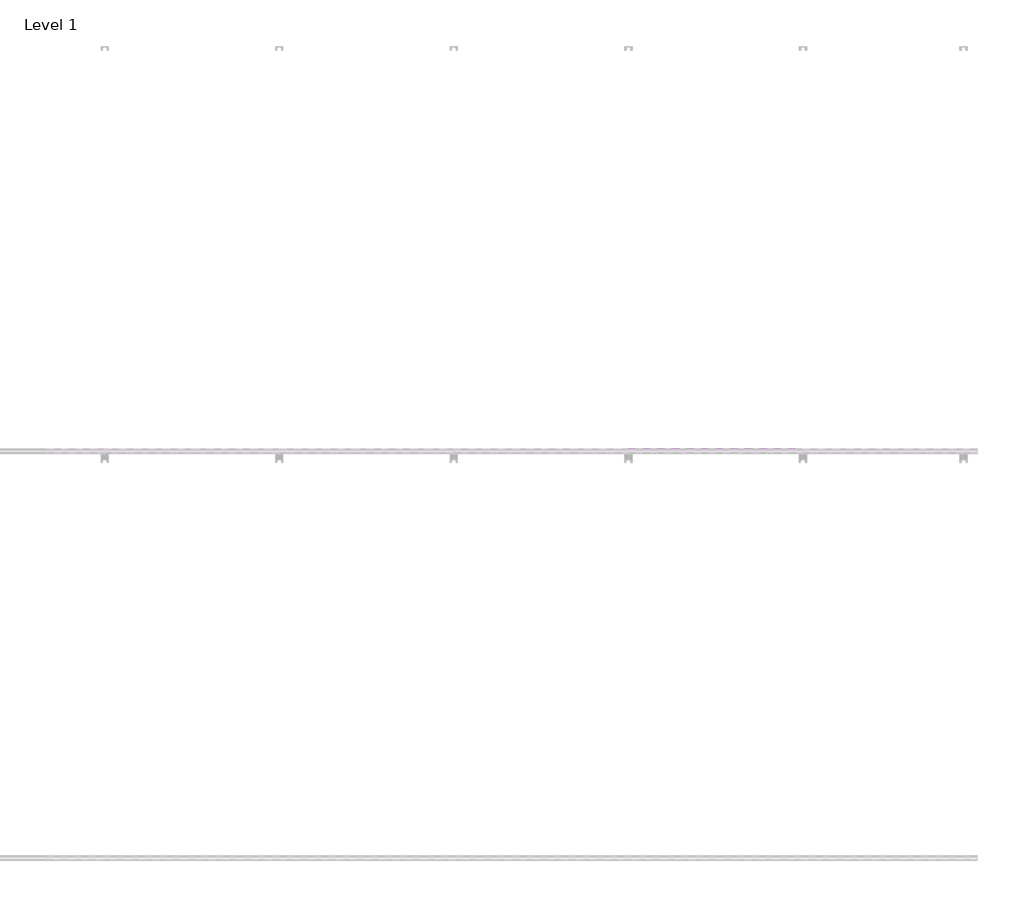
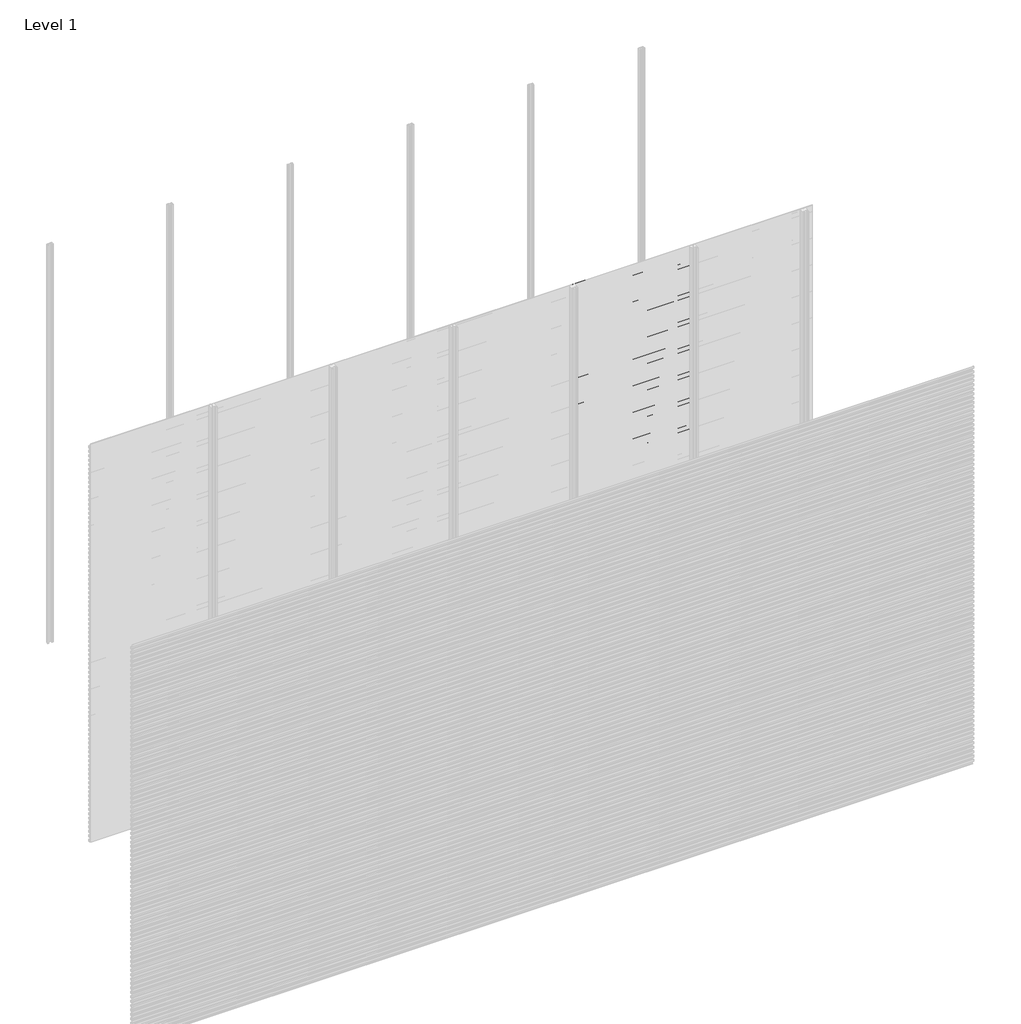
# One storey, part 76 of 96: 77 proxies.
"""IFC4 building model written with IfcOpenShell, lengths in millimetres."""

import ifcopenshell
import ifcopenshell.guid

model = None  # the IFC model being written
_history = None  # IfcOwnerHistory: only IFC2X3 demands one
_inside = {}  # id of a spatial element -> (the spatial element, [elements in it])
_under = {}  # id of a project, library or spatial element -> (it, [spatial elements below it])
_declared = {}  # id of a project -> (the project, [libraries it declares])
_typed = {}  # id of a type object -> (the type object, [elements of that type])
_made_of = {}  # id of a material, layer set ... -> (it, [elements and type objects made of it])


def new_model(schema):
    """Start an empty IFC model of exactly this schema.

    Asked for "IFC4X3", IfcOpenShell would pick the latest addendum, in which some entities
    have other attributes; the version numbers below select the first issue.
    IFC2X3 requires an IfcOwnerHistory on every rooted entity: one is made here for all.
    """
    global model, _history
    if schema == "IFC4X3":
        model = ifcopenshell.file(schema_version=(4, 3, 0, 0))
    else:
        model = ifcopenshell.file(schema=schema)
    _inside.clear()
    _under.clear()
    _declared.clear()
    _typed.clear()
    _made_of.clear()
    _history = None
    if model.schema == "IFC2X3":
        org = make("IfcOrganization", Name="unknown")
        user = make(
            "IfcPersonAndOrganization",
            ThePerson=make("IfcPerson", FamilyName="unknown"),
            TheOrganization=org,
        )
        app = make(
            "IfcApplication",
            ApplicationDeveloper=org,
            Version="unknown",
            ApplicationFullName="unknown",
            ApplicationIdentifier="unknown",
        )
        _history = make(
            "IfcOwnerHistory",
            OwningUser=user,
            OwningApplication=app,
            ChangeAction="ADDED",
            CreationDate=0,
        )
    return model


def make(cls, **values):
    """One entity of the class cls with the attributes given. An attribute that is None is left unset."""
    return model.create_entity(
        cls, **{name: value for name, value in values.items() if value is not None}
    )


def rooted(cls, **values):
    """An entity with a GlobalId (a new one), such as an element, a storey or a relation."""
    return make(cls, GlobalId=ifcopenshell.guid.new(), OwnerHistory=_history, **values)


def si_unit(unit_type, name, prefix=None):
    """IfcSIUnit, for example si_unit("LENGTHUNIT", "METRE", prefix="MILLI")."""
    return make("IfcSIUnit", UnitType=unit_type, Prefix=prefix, Name=name)


def assignment(units):
    """IfcUnitAssignment: the units of a project."""
    return None if units is None else make("IfcUnitAssignment", Units=units)


def point(xyz):
    """IfcCartesianPoint."""
    return None if xyz is None else make("IfcCartesianPoint", Coordinates=xyz)


def direction(xyz):
    """IfcDirection."""
    return None if xyz is None else make("IfcDirection", DirectionRatios=xyz)


def frame(location, z_axis=None, x_axis=None):
    """IfcAxis2Placement3D, a coordinate frame: its origin and axes. An axis left out is left unset."""
    return make(
        "IfcAxis2Placement3D",
        Location=point(location),
        Axis=direction(z_axis),
        RefDirection=direction(x_axis),
    )


def origin():
    """The frame at (0, 0, 0) with its axes left unset."""
    return frame((0.0, 0.0, 0.0))


def place(relative_to, where):
    """IfcLocalPlacement: puts the frame where relative to a parent placement (None: the world)."""
    return make(
        "IfcLocalPlacement", PlacementRelTo=relative_to, RelativePlacement=where
    )


def context(
    kind, dimensions, precision=None, world=None, true_north=None, identifier=None
):
    """IfcGeometricRepresentationContext, for example the 3D "Model" context."""
    return make(
        "IfcGeometricRepresentationContext",
        ContextIdentifier=identifier,
        ContextType=kind,
        CoordinateSpaceDimension=dimensions,
        Precision=precision,
        WorldCoordinateSystem=world,
        TrueNorth=true_north,
    )


def project(units=None, contexts=None):
    """IfcProject with its units and contexts."""
    return rooted(
        "IfcProject",
        Name="project",
        RepresentationContexts=contexts,
        UnitsInContext=assignment(units),
    )


def spatial(cls, under=None, at=None, **own):
    """A site, building, storey or space (cls), placed at a placement, below another one or the project."""
    s = rooted(cls, ObjectPlacement=at, **own)
    if under is not None:
        _under.setdefault(under.id(), (under, []))[1].append(s)
    return s


def polyline(points):
    """IfcPolyline through the points."""
    return make("IfcPolyline", Points=[point(p) for p in points])


def outline(outer, holes=None, kind="AREA"):
    """IfcArbitraryClosedProfileDef: a profile drawn as a closed curve; with holes, ...WithVoids."""
    if holes is None:
        return make("IfcArbitraryClosedProfileDef", ProfileType=kind, OuterCurve=outer)
    return make(
        "IfcArbitraryProfileDefWithVoids",
        ProfileType=kind,
        OuterCurve=outer,
        InnerCurves=holes,
    )


def extrude(swept, where, along, depth):
    """IfcExtrudedAreaSolid: the profile swept, set in the frame where, extruded along a direction by depth."""
    return make(
        "IfcExtrudedAreaSolid",
        SweptArea=swept,
        Position=where,
        ExtrudedDirection=direction(along),
        Depth=depth,
    )


def shape(context_of_items, identifier, shape_type, items):
    """IfcShapeRepresentation: the items that make up one representation, for example the "Body"."""
    return make(
        "IfcShapeRepresentation",
        ContextOfItems=context_of_items,
        RepresentationIdentifier=identifier,
        RepresentationType=shape_type,
        Items=items,
    )


def made_of(thing, what):
    """Note that an element or type object is made of a material, layer set ...; save() writes the relation."""
    if what is not None:
        _made_of.setdefault(what.id(), (what, []))[1].append(thing)
    return thing


def element(
    cls,
    number,
    at=None,
    inside=None,
    cuts=None,
    type_object=None,
    material=None,
    context=None,
    identifier="Body",
    shape_type=None,
    held_by="IfcProductDefinitionShape",
    body=None,
    shapes=None,
    **own,
):
    """One element of the class cls, such as IfcWall. Its Tag is "e" and its number.

    at: its placement. inside: the storey or other place that contains it. cuts: it is an
    opening in that element (IfcRelVoidsElement). A single representation is given by context,
    identifier, shape_type and body (its items); several are given by shapes. held_by: the class
    of the entity that holds the representations. save() writes the other relations.
    """
    e = rooted(cls, Tag="e%d" % number, ObjectPlacement=at, **own)
    if body is not None:
        shapes = [shape(context, identifier, shape_type, body)]
    if shapes is not None:
        e.Representation = make(held_by, Representations=shapes)
    if inside is not None:
        _inside.setdefault(inside.id(), (inside, []))[1].append(e)
    if cuts is not None:
        rooted(
            "IfcRelVoidsElement", RelatingBuildingElement=cuts, RelatedOpeningElement=e
        )
    if type_object is not None:
        _typed.setdefault(type_object.id(), (type_object, []))[1].append(e)
    return made_of(e, material)


def aggregate(whole, parts):
    """IfcRelAggregates: a whole, such as a stair, and the parts it consists of."""
    return rooted("IfcRelAggregates", RelatingObject=whole, RelatedObjects=parts)


def save(model, path):
    """Write the relations noted so far, then the file.

    IfcRelAggregates (storeys below a building ...), IfcRelContainedInSpatialStructure (elements
    in a storey), IfcRelDefinesByType, IfcRelAssociatesMaterial and IfcRelDeclares: one each for
    every whole, place, type object, material and project.
    """
    for whole, parts in _under.values():
        aggregate(whole, parts)
    for where, things in _inside.values():
        rooted(
            "IfcRelContainedInSpatialStructure",
            RelatedElements=things,
            RelatingStructure=where,
        )
    for kind, things in _typed.values():
        rooted("IfcRelDefinesByType", RelatedObjects=things, RelatingType=kind)
    for what, things in _made_of.values():
        rooted("IfcRelAssociatesMaterial", RelatedObjects=things, RelatingMaterial=what)
    for by, libraries in _declared.values():
        rooted("IfcRelDeclares", RelatingContext=by, RelatedDefinitions=libraries)
    model.write(path)


model = new_model("IFC4")

# Units and contexts
model_context = context("Model", 3, world=origin())
ifc_project = project(units=[si_unit("LENGTHUNIT", "METRE", prefix="MILLI")], contexts=[model_context])

# Site, building, storey
site = spatial("IfcSite", under=ifc_project)
building = spatial("IfcBuilding", under=site)
storey = spatial("IfcBuildingStorey", under=building, Name="Level 1", Elevation=0.0)

# Proxies
placement = place(None, origin())
element("IfcBuildingElementProxy", 1, Name="Wall Sweeps", at=placement, inside=storey, context=model_context, shape_type="SweptSolid", body=[
    extrude(outline(polyline([(-11977.6, 1106.9655033), (-11977.6, 1092.6779188), (-11982.4114965, 1089.9), (-11982.4114965, 1091.1701706), (-11978.85, 1093.2264016), (-11978.85, 1106.2437382), (-11998.0, 1117.3000799), (-11998.0, 1132.2), (-11996.75, 1132.2), (-11996.75, 1118.0217609), (-11977.6, 1106.9655033)])), frame((3428.5714286, 0.0, 0.0), z_axis=(1.0, 0.0, 0.0), x_axis=(0.0, 1.0, 0.0)), (0.0, 0.0, 1.0), 857.1428571),
])
element("IfcBuildingElementProxy", 2, Name="Wall Sweeps", at=placement, inside=storey, context=model_context, shape_type="SweptSolid", body=[
    extrude(outline(polyline([(-11977.6, 1073.6655033), (-11977.6, 1059.3779188), (-11982.4114965, 1056.6), (-11982.4114965, 1057.8701706), (-11978.85, 1059.9264016), (-11978.85, 1072.9437382), (-11998.0, 1084.0000799), (-11998.0, 1098.9), (-11996.75, 1098.9), (-11996.75, 1084.7217609), (-11977.6, 1073.6655033)])), frame((3428.5714286, 0.0, 0.0), z_axis=(1.0, 0.0, 0.0), x_axis=(0.0, 1.0, 0.0)), (0.0, 0.0, 1.0), 857.1428571),
])
element("IfcBuildingElementProxy", 3, Name="Wall Sweeps", at=placement, inside=storey, context=model_context, shape_type="SweptSolid", body=[
    extrude(outline(polyline([(-11977.6, 1040.3655033), (-11977.6, 1026.0779188), (-11982.4114965, 1023.3), (-11982.4114965, 1024.5701706), (-11978.85, 1026.6264016), (-11978.85, 1039.6437382), (-11998.0, 1050.7000799), (-11998.0, 1065.6), (-11996.75, 1065.6), (-11996.75, 1051.4217609), (-11977.6, 1040.3655033)])), frame((3428.5714286, 0.0, 0.0), z_axis=(1.0, 0.0, 0.0), x_axis=(0.0, 1.0, 0.0)), (0.0, 0.0, 1.0), 857.1428571),
])
element("IfcBuildingElementProxy", 4, Name="Wall Sweeps", at=placement, inside=storey, context=model_context, shape_type="SweptSolid", body=[
    extrude(outline(polyline([(-11977.6, 1007.0655033), (-11977.6, 992.7779188), (-11982.4114965, 990.0), (-11982.4114965, 991.2701706), (-11978.85, 993.3264016), (-11978.85, 1006.3437382), (-11998.0, 1017.4000799), (-11998.0, 1032.3), (-11996.75, 1032.3), (-11996.75, 1018.1217609), (-11977.6, 1007.0655033)])), frame((3428.5714286, 0.0, 0.0), z_axis=(1.0, 0.0, 0.0), x_axis=(0.0, 1.0, 0.0)), (0.0, 0.0, 1.0), 857.1428571),
])
element("IfcBuildingElementProxy", 5, Name="Wall Sweeps", at=placement, inside=storey, context=model_context, shape_type="SweptSolid", body=[
    extrude(outline(polyline([(-11977.6, 973.7655033), (-11977.6, 959.4779188), (-11982.4114965, 956.7), (-11982.4114965, 957.9701706), (-11978.85, 960.0264016), (-11978.85, 973.0437382), (-11998.0, 984.1000799), (-11998.0, 999.0), (-11996.75, 999.0), (-11996.75, 984.8217609), (-11977.6, 973.7655033)])), frame((3428.5714286, 0.0, 0.0), z_axis=(1.0, 0.0, 0.0), x_axis=(0.0, 1.0, 0.0)), (0.0, 0.0, 1.0), 857.1428571),
])
element("IfcBuildingElementProxy", 6, Name="Wall Sweeps", at=placement, inside=storey, context=model_context, shape_type="SweptSolid", body=[
    extrude(outline(polyline([(-11977.6, 940.4655033), (-11977.6, 926.1779188), (-11982.4114965, 923.4), (-11982.4114965, 924.6701706), (-11978.85, 926.7264016), (-11978.85, 939.7437382), (-11998.0, 950.8000799), (-11998.0, 965.7), (-11996.75, 965.7), (-11996.75, 951.5217609), (-11977.6, 940.4655033)])), frame((3428.5714286, 0.0, 0.0), z_axis=(1.0, 0.0, 0.0), x_axis=(0.0, 1.0, 0.0)), (0.0, 0.0, 1.0), 857.1428571),
])
element("IfcBuildingElementProxy", 7, Name="Wall Sweeps", at=placement, inside=storey, context=model_context, shape_type="SweptSolid", body=[
    extrude(outline(polyline([(-11977.6, 907.1655033), (-11977.6, 892.8779188), (-11982.4114965, 890.1), (-11982.4114965, 891.3701706), (-11978.85, 893.4264016), (-11978.85, 906.4437382), (-11998.0, 917.5000799), (-11998.0, 932.4), (-11996.75, 932.4), (-11996.75, 918.2217609), (-11977.6, 907.1655033)])), frame((3428.5714286, 0.0, 0.0), z_axis=(1.0, 0.0, 0.0), x_axis=(0.0, 1.0, 0.0)), (0.0, 0.0, 1.0), 857.1428571),
])
element("IfcBuildingElementProxy", 8, Name="Wall Sweeps", at=placement, inside=storey, context=model_context, shape_type="SweptSolid", body=[
    extrude(outline(polyline([(-11977.6, 873.8655033), (-11977.6, 859.5779188), (-11982.4114965, 856.8), (-11982.4114965, 858.0701706), (-11978.85, 860.1264016), (-11978.85, 873.1437382), (-11998.0, 884.2000799), (-11998.0, 899.1), (-11996.75, 899.1), (-11996.75, 884.9217609), (-11977.6, 873.8655033)])), frame((3428.5714286, 0.0, 0.0), z_axis=(1.0, 0.0, 0.0), x_axis=(0.0, 1.0, 0.0)), (0.0, 0.0, 1.0), 857.1428571),
])
element("IfcBuildingElementProxy", 9, Name="Wall Sweeps", at=placement, inside=storey, context=model_context, shape_type="SweptSolid", body=[
    extrude(outline(polyline([(-11977.6, 840.5655033), (-11977.6, 826.2779188), (-11982.4114965, 823.5), (-11982.4114965, 824.7701706), (-11978.85, 826.8264016), (-11978.85, 839.8437382), (-11998.0, 850.9000799), (-11998.0, 865.8), (-11996.75, 865.8), (-11996.75, 851.6217609), (-11977.6, 840.5655033)])), frame((3428.5714286, 0.0, 0.0), z_axis=(1.0, 0.0, 0.0), x_axis=(0.0, 1.0, 0.0)), (0.0, 0.0, 1.0), 857.1428571),
])
element("IfcBuildingElementProxy", 10, Name="Wall Sweeps", at=placement, inside=storey, context=model_context, shape_type="SweptSolid", body=[
    extrude(outline(polyline([(-11977.6, 807.2655033), (-11977.6, 792.9779188), (-11982.4114965, 790.2), (-11982.4114965, 791.4701706), (-11978.85, 793.5264016), (-11978.85, 806.5437382), (-11998.0, 817.6000799), (-11998.0, 832.5), (-11996.75, 832.5), (-11996.75, 818.3217609), (-11977.6, 807.2655033)])), frame((3428.5714286, 0.0, 0.0), z_axis=(1.0, 0.0, 0.0), x_axis=(0.0, 1.0, 0.0)), (0.0, 0.0, 1.0), 857.1428571),
])
element("IfcBuildingElementProxy", 11, Name="Wall Sweeps", at=placement, inside=storey, context=model_context, shape_type="SweptSolid", body=[
    extrude(outline(polyline([(-11977.6, 773.9655033), (-11977.6, 759.6779188), (-11982.4114965, 756.9), (-11982.4114965, 758.1701706), (-11978.85, 760.2264016), (-11978.85, 773.2437382), (-11998.0, 784.3000799), (-11998.0, 799.2), (-11996.75, 799.2), (-11996.75, 785.0217609), (-11977.6, 773.9655033)])), frame((3428.5714286, 0.0, 0.0), z_axis=(1.0, 0.0, 0.0), x_axis=(0.0, 1.0, 0.0)), (0.0, 0.0, 1.0), 857.1428571),
])
element("IfcBuildingElementProxy", 12, Name="Wall Sweeps", at=placement, inside=storey, context=model_context, shape_type="SweptSolid", body=[
    extrude(outline(polyline([(-11977.6, 740.6655033), (-11977.6, 726.3779188), (-11982.4114965, 723.6), (-11982.4114965, 724.8701706), (-11978.85, 726.9264016), (-11978.85, 739.9437382), (-11998.0, 751.0000799), (-11998.0, 765.9), (-11996.75, 765.9), (-11996.75, 751.7217609), (-11977.6, 740.6655033)])), frame((3428.5714286, 0.0, 0.0), z_axis=(1.0, 0.0, 0.0), x_axis=(0.0, 1.0, 0.0)), (0.0, 0.0, 1.0), 857.1428571),
])
element("IfcBuildingElementProxy", 13, Name="Wall Sweeps", at=placement, inside=storey, context=model_context, shape_type="SweptSolid", body=[
    extrude(outline(polyline([(-11977.6, 707.3655033), (-11977.6, 693.0779188), (-11982.4114965, 690.3), (-11982.4114965, 691.5701706), (-11978.85, 693.6264016), (-11978.85, 706.6437382), (-11998.0, 717.7000799), (-11998.0, 732.6), (-11996.75, 732.6), (-11996.75, 718.4217609), (-11977.6, 707.3655033)])), frame((3428.5714286, 0.0, 0.0), z_axis=(1.0, 0.0, 0.0), x_axis=(0.0, 1.0, 0.0)), (0.0, 0.0, 1.0), 857.1428571),
])
element("IfcBuildingElementProxy", 14, Name="Wall Sweeps", at=placement, inside=storey, context=model_context, shape_type="SweptSolid", body=[
    extrude(outline(polyline([(-11977.6, 674.0655033), (-11977.6, 659.7779188), (-11982.4114965, 657.0), (-11982.4114965, 658.2701706), (-11978.85, 660.3264016), (-11978.85, 673.3437382), (-11998.0, 684.4000799), (-11998.0, 699.3), (-11996.75, 699.3), (-11996.75, 685.1217609), (-11977.6, 674.0655033)])), frame((3428.5714286, 0.0, 0.0), z_axis=(1.0, 0.0, 0.0), x_axis=(0.0, 1.0, 0.0)), (0.0, 0.0, 1.0), 857.1428571),
])
element("IfcBuildingElementProxy", 15, Name="Wall Sweeps", at=placement, inside=storey, context=model_context, shape_type="SweptSolid", body=[
    extrude(outline(polyline([(-11977.6, 640.7655033), (-11977.6, 626.4779188), (-11982.4114965, 623.7), (-11982.4114965, 624.9701706), (-11978.85, 627.0264016), (-11978.85, 640.0437382), (-11998.0, 651.1000799), (-11998.0, 666.0), (-11996.75, 666.0), (-11996.75, 651.8217609), (-11977.6, 640.7655033)])), frame((3428.5714286, 0.0, 0.0), z_axis=(1.0, 0.0, 0.0), x_axis=(0.0, 1.0, 0.0)), (0.0, 0.0, 1.0), 857.1428571),
])
element("IfcBuildingElementProxy", 16, Name="Wall Sweeps", at=placement, inside=storey, context=model_context, shape_type="SweptSolid", body=[
    extrude(outline(polyline([(-11977.6, 607.4655033), (-11977.6, 593.1779188), (-11982.4114965, 590.4), (-11982.4114965, 591.6701706), (-11978.85, 593.7264016), (-11978.85, 606.7437382), (-11998.0, 617.8000799), (-11998.0, 632.7), (-11996.75, 632.7), (-11996.75, 618.5217609), (-11977.6, 607.4655033)])), frame((3428.5714286, 0.0, 0.0), z_axis=(1.0, 0.0, 0.0), x_axis=(0.0, 1.0, 0.0)), (0.0, 0.0, 1.0), 857.1428571),
])
element("IfcBuildingElementProxy", 17, Name="Wall Sweeps", at=placement, inside=storey, context=model_context, shape_type="SweptSolid", body=[
    extrude(outline(polyline([(-11977.6, 574.1655033), (-11977.6, 559.8779188), (-11982.4114965, 557.1), (-11982.4114965, 558.3701706), (-11978.85, 560.4264016), (-11978.85, 573.4437382), (-11998.0, 584.5000799), (-11998.0, 599.4), (-11996.75, 599.4), (-11996.75, 585.2217609), (-11977.6, 574.1655033)])), frame((3428.5714286, 0.0, 0.0), z_axis=(1.0, 0.0, 0.0), x_axis=(0.0, 1.0, 0.0)), (0.0, 0.0, 1.0), 857.1428571),
])
element("IfcBuildingElementProxy", 18, Name="Wall Sweeps", at=placement, inside=storey, context=model_context, shape_type="SweptSolid", body=[
    extrude(outline(polyline([(-11977.6, 540.8655033), (-11977.6, 526.5779188), (-11982.4114965, 523.8), (-11982.4114965, 525.0701706), (-11978.85, 527.1264016), (-11978.85, 540.1437382), (-11998.0, 551.2000799), (-11998.0, 566.1), (-11996.75, 566.1), (-11996.75, 551.9217609), (-11977.6, 540.8655033)])), frame((3428.5714286, 0.0, 0.0), z_axis=(1.0, 0.0, 0.0), x_axis=(0.0, 1.0, 0.0)), (0.0, 0.0, 1.0), 857.1428571),
])
element("IfcBuildingElementProxy", 19, Name="Wall Sweeps", at=placement, inside=storey, context=model_context, shape_type="SweptSolid", body=[
    extrude(outline(polyline([(-11977.6, 507.5655033), (-11977.6, 493.2779188), (-11982.4114965, 490.5), (-11982.4114965, 491.7701706), (-11978.85, 493.8264016), (-11978.85, 506.8437382), (-11998.0, 517.9000799), (-11998.0, 532.8), (-11996.75, 532.8), (-11996.75, 518.6217609), (-11977.6, 507.5655033)])), frame((3428.5714286, 0.0, 0.0), z_axis=(1.0, 0.0, 0.0), x_axis=(0.0, 1.0, 0.0)), (0.0, 0.0, 1.0), 857.1428571),
])
element("IfcBuildingElementProxy", 20, Name="Wall Sweeps", at=placement, inside=storey, context=model_context, shape_type="SweptSolid", body=[
    extrude(outline(polyline([(-11977.6, 474.2655033), (-11977.6, 459.9779188), (-11982.4114965, 457.2), (-11982.4114965, 458.4701706), (-11978.85, 460.5264016), (-11978.85, 473.5437382), (-11998.0, 484.6000799), (-11998.0, 499.5), (-11996.75, 499.5), (-11996.75, 485.3217609), (-11977.6, 474.2655033)])), frame((3428.5714286, 0.0, 0.0), z_axis=(1.0, 0.0, 0.0), x_axis=(0.0, 1.0, 0.0)), (0.0, 0.0, 1.0), 857.1428571),
])
element("IfcBuildingElementProxy", 21, Name="Wall Sweeps", at=placement, inside=storey, context=model_context, shape_type="SweptSolid", body=[
    extrude(outline(polyline([(-11977.6, 440.9655033), (-11977.6, 426.6779188), (-11982.4114965, 423.9), (-11982.4114965, 425.1701706), (-11978.85, 427.2264016), (-11978.85, 440.2437382), (-11998.0, 451.3000799), (-11998.0, 466.2), (-11996.75, 466.2), (-11996.75, 452.0217609), (-11977.6, 440.9655033)])), frame((3428.5714286, 0.0, 0.0), z_axis=(1.0, 0.0, 0.0), x_axis=(0.0, 1.0, 0.0)), (0.0, 0.0, 1.0), 857.1428571),
])
element("IfcBuildingElementProxy", 22, Name="Wall Sweeps", at=placement, inside=storey, context=model_context, shape_type="SweptSolid", body=[
    extrude(outline(polyline([(-11977.6, 407.6655033), (-11977.6, 393.3779188), (-11982.4114965, 390.6), (-11982.4114965, 391.8701706), (-11978.85, 393.9264016), (-11978.85, 406.9437382), (-11998.0, 418.0000799), (-11998.0, 432.9), (-11996.75, 432.9), (-11996.75, 418.7217609), (-11977.6, 407.6655033)])), frame((3428.5714286, 0.0, 0.0), z_axis=(1.0, 0.0, 0.0), x_axis=(0.0, 1.0, 0.0)), (0.0, 0.0, 1.0), 857.1428571),
])
element("IfcBuildingElementProxy", 23, Name="Wall Sweeps", at=placement, inside=storey, context=model_context, shape_type="SweptSolid", body=[
    extrude(outline(polyline([(-11977.6, 374.3655033), (-11977.6, 360.0779188), (-11982.4114965, 357.3), (-11982.4114965, 358.5701706), (-11978.85, 360.6264016), (-11978.85, 373.6437382), (-11998.0, 384.7000799), (-11998.0, 399.6), (-11996.75, 399.6), (-11996.75, 385.4217609), (-11977.6, 374.3655033)])), frame((3428.5714286, 0.0, 0.0), z_axis=(1.0, 0.0, 0.0), x_axis=(0.0, 1.0, 0.0)), (0.0, 0.0, 1.0), 857.1428571),
])
element("IfcBuildingElementProxy", 24, Name="Wall Sweeps", at=placement, inside=storey, context=model_context, shape_type="SweptSolid", body=[
    extrude(outline(polyline([(-11977.6, 341.0655033), (-11977.6, 326.7779188), (-11982.4114965, 324.0), (-11982.4114965, 325.2701706), (-11978.85, 327.3264016), (-11978.85, 340.3437382), (-11998.0, 351.4000799), (-11998.0, 366.3), (-11996.75, 366.3), (-11996.75, 352.1217609), (-11977.6, 341.0655033)])), frame((3428.5714286, 0.0, 0.0), z_axis=(1.0, 0.0, 0.0), x_axis=(0.0, 1.0, 0.0)), (0.0, 0.0, 1.0), 857.1428571),
])
element("IfcBuildingElementProxy", 25, Name="Wall Sweeps", at=placement, inside=storey, context=model_context, shape_type="SweptSolid", body=[
    extrude(outline(polyline([(-11977.6, 307.7655033), (-11977.6, 293.4779188), (-11982.4114965, 290.7), (-11982.4114965, 291.9701706), (-11978.85, 294.0264016), (-11978.85, 307.0437382), (-11998.0, 318.1000799), (-11998.0, 333.0), (-11996.75, 333.0), (-11996.75, 318.8217609), (-11977.6, 307.7655033)])), frame((3428.5714286, 0.0, 0.0), z_axis=(1.0, 0.0, 0.0), x_axis=(0.0, 1.0, 0.0)), (0.0, 0.0, 1.0), 857.1428571),
])
element("IfcBuildingElementProxy", 26, Name="Wall Sweeps", at=placement, inside=storey, context=model_context, shape_type="SweptSolid", body=[
    extrude(outline(polyline([(-11977.6, 274.4655033), (-11977.6, 260.1779188), (-11982.4114965, 257.4), (-11982.4114965, 258.6701706), (-11978.85, 260.7264016), (-11978.85, 273.7437382), (-11998.0, 284.8000799), (-11998.0, 299.7), (-11996.75, 299.7), (-11996.75, 285.5217609), (-11977.6, 274.4655033)])), frame((3428.5714286, 0.0, 0.0), z_axis=(1.0, 0.0, 0.0), x_axis=(0.0, 1.0, 0.0)), (0.0, 0.0, 1.0), 857.1428571),
])
element("IfcBuildingElementProxy", 27, Name="Wall Sweeps", at=placement, inside=storey, context=model_context, shape_type="SweptSolid", body=[
    extrude(outline(polyline([(-11977.6, 241.1655033), (-11977.6, 226.8779188), (-11982.4114965, 224.1), (-11982.4114965, 225.3701706), (-11978.85, 227.4264016), (-11978.85, 240.4437382), (-11998.0, 251.5000799), (-11998.0, 266.4), (-11996.75, 266.4), (-11996.75, 252.2217609), (-11977.6, 241.1655033)])), frame((3428.5714286, 0.0, 0.0), z_axis=(1.0, 0.0, 0.0), x_axis=(0.0, 1.0, 0.0)), (0.0, 0.0, 1.0), 857.1428571),
])
element("IfcBuildingElementProxy", 28, Name="Wall Sweeps", at=placement, inside=storey, context=model_context, shape_type="SweptSolid", body=[
    extrude(outline(polyline([(-11977.6, 207.8655033), (-11977.6, 193.5779188), (-11982.4114965, 190.8), (-11982.4114965, 192.0701706), (-11978.85, 194.1264016), (-11978.85, 207.1437382), (-11998.0, 218.2000799), (-11998.0, 233.1), (-11996.75, 233.1), (-11996.75, 218.9217609), (-11977.6, 207.8655033)])), frame((3428.5714286, 0.0, 0.0), z_axis=(1.0, 0.0, 0.0), x_axis=(0.0, 1.0, 0.0)), (0.0, 0.0, 1.0), 857.1428571),
])
element("IfcBuildingElementProxy", 29, Name="Wall Sweeps", at=placement, inside=storey, context=model_context, shape_type="SweptSolid", body=[
    extrude(outline(polyline([(-11977.6, 174.5655033), (-11977.6, 160.2779188), (-11982.4114965, 157.5), (-11982.4114965, 158.7701706), (-11978.85, 160.8264016), (-11978.85, 173.8437382), (-11998.0, 184.9000799), (-11998.0, 199.8), (-11996.75, 199.8), (-11996.75, 185.6217609), (-11977.6, 174.5655033)])), frame((3428.5714286, 0.0, 0.0), z_axis=(1.0, 0.0, 0.0), x_axis=(0.0, 1.0, 0.0)), (0.0, 0.0, 1.0), 857.1428571),
])
element("IfcBuildingElementProxy", 30, Name="Wall Sweeps", at=placement, inside=storey, context=model_context, shape_type="SweptSolid", body=[
    extrude(outline(polyline([(-11977.6, 141.2655033), (-11977.6, 126.9779188), (-11982.4114965, 124.2), (-11982.4114965, 125.4701706), (-11978.85, 127.5264016), (-11978.85, 140.5437382), (-11998.0, 151.6000799), (-11998.0, 166.5), (-11996.75, 166.5), (-11996.75, 152.3217609), (-11977.6, 141.2655033)])), frame((3428.5714286, 0.0, 0.0), z_axis=(1.0, 0.0, 0.0), x_axis=(0.0, 1.0, 0.0)), (0.0, 0.0, 1.0), 857.1428571),
])
element("IfcBuildingElementProxy", 31, Name="Wall Sweeps", at=placement, inside=storey, context=model_context, shape_type="SweptSolid", body=[
    extrude(outline(polyline([(-11977.6, 107.9655033), (-11977.6, 93.6779188), (-11982.4114965, 90.9), (-11982.4114965, 92.1701706), (-11978.85, 94.2264016), (-11978.85, 107.2437382), (-11998.0, 118.3000799), (-11998.0, 133.2), (-11996.75, 133.2), (-11996.75, 119.0217609), (-11977.6, 107.9655033)])), frame((3428.5714286, 0.0, 0.0), z_axis=(1.0, 0.0, 0.0), x_axis=(0.0, 1.0, 0.0)), (0.0, 0.0, 1.0), 857.1428571),
])
element("IfcBuildingElementProxy", 32, Name="Wall Sweeps", at=placement, inside=storey, context=model_context, shape_type="SweptSolid", body=[
    extrude(outline(polyline([(-11977.6, 74.6655033), (-11977.6, 60.3779188), (-11982.4114965, 57.6), (-11982.4114965, 58.8701706), (-11978.85, 60.9264016), (-11978.85, 73.9437382), (-11998.0, 85.0000799), (-11998.0, 99.9), (-11996.75, 99.9), (-11996.75, 85.7217609), (-11977.6, 74.6655033)])), frame((3428.5714286, 0.0, 0.0), z_axis=(1.0, 0.0, 0.0), x_axis=(0.0, 1.0, 0.0)), (0.0, 0.0, 1.0), 857.1428571),
])
element("IfcBuildingElementProxy", 33, Name="Wall Sweeps", at=placement, inside=storey, context=model_context, shape_type="SweptSolid", body=[
    extrude(outline(polyline([(-11977.6, 41.3655033), (-11977.6, 27.0779188), (-11982.4114965, 24.3), (-11982.4114965, 25.5701706), (-11978.85, 27.6264016), (-11978.85, 40.6437382), (-11998.0, 51.7000799), (-11998.0, 66.6), (-11996.75, 66.6), (-11996.75, 52.4217609), (-11977.6, 41.3655033)])), frame((3428.5714286, 0.0, 0.0), z_axis=(1.0, 0.0, 0.0), x_axis=(0.0, 1.0, 0.0)), (0.0, 0.0, 1.0), 857.1428571),
])
element("IfcBuildingElementProxy", 34, Name="Wall Sweeps", at=placement, inside=storey, context=model_context, shape_type="SweptSolid", body=[
    extrude(outline(polyline([(-11977.6, 8.0655033), (-11977.6, -6.2220812), (-11982.4114965, -9.0), (-11982.4114965, -7.7298294), (-11978.85, -5.6735984), (-11978.85, 7.3437382), (-11998.0, 18.4000799), (-11998.0, 33.3), (-11996.75, 33.3), (-11996.75, 19.1217609), (-11977.6, 8.0655033)])), frame((3428.5714286, 0.0, 0.0), z_axis=(1.0, 0.0, 0.0), x_axis=(0.0, 1.0, 0.0)), (0.0, 0.0, 1.0), 857.1428571),
])
element("IfcBuildingElementProxy", 35, Name="Wall Sweeps", at=placement, inside=storey, context=model_context, shape_type="SweptSolid", body=[
    extrude(outline(polyline([(-11977.6, 2971.7655033), (-11977.6, 2957.4779188), (-11982.4114965, 2954.7), (-11982.4114965, 2955.9701706), (-11978.85, 2958.0264016), (-11978.85, 2971.0437382), (-11998.0, 2982.1000799), (-11998.0, 2997.0), (-11996.75, 2997.0), (-11996.75, 2982.8217609), (-11977.6, 2971.7655033)])), frame((4285.7142857, 0.0, 0.0), z_axis=(1.0, 0.0, 0.0), x_axis=(0.0, 1.0, 0.0)), (0.0, 0.0, 1.0), 857.1428571),
])
element("IfcBuildingElementProxy", 36, Name="Wall Sweeps", at=placement, inside=storey, context=model_context, shape_type="SweptSolid", body=[
    extrude(outline(polyline([(-11977.6, 2938.4655033), (-11977.6, 2924.1779188), (-11982.4114965, 2921.4), (-11982.4114965, 2922.6701706), (-11978.85, 2924.7264016), (-11978.85, 2937.7437382), (-11998.0, 2948.8000799), (-11998.0, 2963.7), (-11996.75, 2963.7), (-11996.75, 2949.5217609), (-11977.6, 2938.4655033)])), frame((4285.7142857, 0.0, 0.0), z_axis=(1.0, 0.0, 0.0), x_axis=(0.0, 1.0, 0.0)), (0.0, 0.0, 1.0), 857.1428571),
])
element("IfcBuildingElementProxy", 37, Name="Wall Sweeps", at=placement, inside=storey, context=model_context, shape_type="SweptSolid", body=[
    extrude(outline(polyline([(-11977.6, 2905.1655033), (-11977.6, 2890.8779188), (-11982.4114965, 2888.1), (-11982.4114965, 2889.3701706), (-11978.85, 2891.4264016), (-11978.85, 2904.4437382), (-11998.0, 2915.5000799), (-11998.0, 2930.4), (-11996.75, 2930.4), (-11996.75, 2916.2217609), (-11977.6, 2905.1655033)])), frame((4285.7142857, 0.0, 0.0), z_axis=(1.0, 0.0, 0.0), x_axis=(0.0, 1.0, 0.0)), (0.0, 0.0, 1.0), 857.1428571),
])
element("IfcBuildingElementProxy", 38, Name="Wall Sweeps", at=placement, inside=storey, context=model_context, shape_type="SweptSolid", body=[
    extrude(outline(polyline([(-11977.6, 2871.8655033), (-11977.6, 2857.5779188), (-11982.4114965, 2854.8), (-11982.4114965, 2856.0701706), (-11978.85, 2858.1264016), (-11978.85, 2871.1437382), (-11998.0, 2882.2000799), (-11998.0, 2897.1), (-11996.75, 2897.1), (-11996.75, 2882.9217609), (-11977.6, 2871.8655033)])), frame((4285.7142857, 0.0, 0.0), z_axis=(1.0, 0.0, 0.0), x_axis=(0.0, 1.0, 0.0)), (0.0, 0.0, 1.0), 857.1428571),
])
element("IfcBuildingElementProxy", 39, Name="Wall Sweeps", at=placement, inside=storey, context=model_context, shape_type="SweptSolid", body=[
    extrude(outline(polyline([(-11977.6, 2838.5655033), (-11977.6, 2824.2779188), (-11982.4114965, 2821.5), (-11982.4114965, 2822.7701706), (-11978.85, 2824.8264016), (-11978.85, 2837.8437382), (-11998.0, 2848.9000799), (-11998.0, 2863.8), (-11996.75, 2863.8), (-11996.75, 2849.6217609), (-11977.6, 2838.5655033)])), frame((4285.7142857, 0.0, 0.0), z_axis=(1.0, 0.0, 0.0), x_axis=(0.0, 1.0, 0.0)), (0.0, 0.0, 1.0), 857.1428571),
])
element("IfcBuildingElementProxy", 40, Name="Wall Sweeps", at=placement, inside=storey, context=model_context, shape_type="SweptSolid", body=[
    extrude(outline(polyline([(-11977.6, 2805.2655033), (-11977.6, 2790.9779188), (-11982.4114965, 2788.2), (-11982.4114965, 2789.4701706), (-11978.85, 2791.5264016), (-11978.85, 2804.5437382), (-11998.0, 2815.6000799), (-11998.0, 2830.5), (-11996.75, 2830.5), (-11996.75, 2816.3217609), (-11977.6, 2805.2655033)])), frame((4285.7142857, 0.0, 0.0), z_axis=(1.0, 0.0, 0.0), x_axis=(0.0, 1.0, 0.0)), (0.0, 0.0, 1.0), 857.1428571),
])
element("IfcBuildingElementProxy", 41, Name="Wall Sweeps", at=placement, inside=storey, context=model_context, shape_type="SweptSolid", body=[
    extrude(outline(polyline([(-11977.6, 2771.9655033), (-11977.6, 2757.6779188), (-11982.4114965, 2754.9), (-11982.4114965, 2756.1701706), (-11978.85, 2758.2264016), (-11978.85, 2771.2437382), (-11998.0, 2782.3000799), (-11998.0, 2797.2), (-11996.75, 2797.2), (-11996.75, 2783.0217609), (-11977.6, 2771.9655033)])), frame((4285.7142857, 0.0, 0.0), z_axis=(1.0, 0.0, 0.0), x_axis=(0.0, 1.0, 0.0)), (0.0, 0.0, 1.0), 857.1428571),
])
element("IfcBuildingElementProxy", 42, Name="Wall Sweeps", at=placement, inside=storey, context=model_context, shape_type="SweptSolid", body=[
    extrude(outline(polyline([(-11977.6, 2738.6655033), (-11977.6, 2724.3779188), (-11982.4114965, 2721.6), (-11982.4114965, 2722.8701706), (-11978.85, 2724.9264016), (-11978.85, 2737.9437382), (-11998.0, 2749.0000799), (-11998.0, 2763.9), (-11996.75, 2763.9), (-11996.75, 2749.7217609), (-11977.6, 2738.6655033)])), frame((4285.7142857, 0.0, 0.0), z_axis=(1.0, 0.0, 0.0), x_axis=(0.0, 1.0, 0.0)), (0.0, 0.0, 1.0), 857.1428571),
])
element("IfcBuildingElementProxy", 43, Name="Wall Sweeps", at=placement, inside=storey, context=model_context, shape_type="SweptSolid", body=[
    extrude(outline(polyline([(-11977.6, 2705.3655033), (-11977.6, 2691.0779188), (-11982.4114965, 2688.3), (-11982.4114965, 2689.5701706), (-11978.85, 2691.6264016), (-11978.85, 2704.6437382), (-11998.0, 2715.7000799), (-11998.0, 2730.6), (-11996.75, 2730.6), (-11996.75, 2716.4217609), (-11977.6, 2705.3655033)])), frame((4285.7142857, 0.0, 0.0), z_axis=(1.0, 0.0, 0.0), x_axis=(0.0, 1.0, 0.0)), (0.0, 0.0, 1.0), 857.1428571),
])
element("IfcBuildingElementProxy", 44, Name="Wall Sweeps", at=placement, inside=storey, context=model_context, shape_type="SweptSolid", body=[
    extrude(outline(polyline([(-11977.6, 2672.0655033), (-11977.6, 2657.7779188), (-11982.4114965, 2655.0), (-11982.4114965, 2656.2701706), (-11978.85, 2658.3264016), (-11978.85, 2671.3437382), (-11998.0, 2682.4000799), (-11998.0, 2697.3), (-11996.75, 2697.3), (-11996.75, 2683.1217609), (-11977.6, 2672.0655033)])), frame((4285.7142857, 0.0, 0.0), z_axis=(1.0, 0.0, 0.0), x_axis=(0.0, 1.0, 0.0)), (0.0, 0.0, 1.0), 857.1428571),
])
element("IfcBuildingElementProxy", 45, Name="Wall Sweeps", at=placement, inside=storey, context=model_context, shape_type="SweptSolid", body=[
    extrude(outline(polyline([(-11977.6, 2638.7655033), (-11977.6, 2624.4779188), (-11982.4114965, 2621.7), (-11982.4114965, 2622.9701706), (-11978.85, 2625.0264016), (-11978.85, 2638.0437382), (-11998.0, 2649.1000799), (-11998.0, 2664.0), (-11996.75, 2664.0), (-11996.75, 2649.8217609), (-11977.6, 2638.7655033)])), frame((4285.7142857, 0.0, 0.0), z_axis=(1.0, 0.0, 0.0), x_axis=(0.0, 1.0, 0.0)), (0.0, 0.0, 1.0), 857.1428571),
])
element("IfcBuildingElementProxy", 46, Name="Wall Sweeps", at=placement, inside=storey, context=model_context, shape_type="SweptSolid", body=[
    extrude(outline(polyline([(-11977.6, 2605.4655033), (-11977.6, 2591.1779188), (-11982.4114965, 2588.4), (-11982.4114965, 2589.6701706), (-11978.85, 2591.7264016), (-11978.85, 2604.7437382), (-11998.0, 2615.8000799), (-11998.0, 2630.7), (-11996.75, 2630.7), (-11996.75, 2616.5217609), (-11977.6, 2605.4655033)])), frame((4285.7142857, 0.0, 0.0), z_axis=(1.0, 0.0, 0.0), x_axis=(0.0, 1.0, 0.0)), (0.0, 0.0, 1.0), 857.1428571),
])
element("IfcBuildingElementProxy", 47, Name="Wall Sweeps", at=placement, inside=storey, context=model_context, shape_type="SweptSolid", body=[
    extrude(outline(polyline([(-11977.6, 2572.1655033), (-11977.6, 2557.8779188), (-11982.4114965, 2555.1), (-11982.4114965, 2556.3701706), (-11978.85, 2558.4264016), (-11978.85, 2571.4437382), (-11998.0, 2582.5000799), (-11998.0, 2597.4), (-11996.75, 2597.4), (-11996.75, 2583.2217609), (-11977.6, 2572.1655033)])), frame((4285.7142857, 0.0, 0.0), z_axis=(1.0, 0.0, 0.0), x_axis=(0.0, 1.0, 0.0)), (0.0, 0.0, 1.0), 857.1428571),
])
element("IfcBuildingElementProxy", 48, Name="Wall Sweeps", at=placement, inside=storey, context=model_context, shape_type="SweptSolid", body=[
    extrude(outline(polyline([(-11977.6, 2538.8655033), (-11977.6, 2524.5779188), (-11982.4114965, 2521.8), (-11982.4114965, 2523.0701706), (-11978.85, 2525.1264016), (-11978.85, 2538.1437382), (-11998.0, 2549.2000799), (-11998.0, 2564.1), (-11996.75, 2564.1), (-11996.75, 2549.9217609), (-11977.6, 2538.8655033)])), frame((4285.7142857, 0.0, 0.0), z_axis=(1.0, 0.0, 0.0), x_axis=(0.0, 1.0, 0.0)), (0.0, 0.0, 1.0), 857.1428571),
])
element("IfcBuildingElementProxy", 49, Name="Wall Sweeps", at=placement, inside=storey, context=model_context, shape_type="SweptSolid", body=[
    extrude(outline(polyline([(-11977.6, 2505.5655033), (-11977.6, 2491.2779188), (-11982.4114965, 2488.5), (-11982.4114965, 2489.7701706), (-11978.85, 2491.8264016), (-11978.85, 2504.8437382), (-11998.0, 2515.9000799), (-11998.0, 2530.8), (-11996.75, 2530.8), (-11996.75, 2516.6217609), (-11977.6, 2505.5655033)])), frame((4285.7142857, 0.0, 0.0), z_axis=(1.0, 0.0, 0.0), x_axis=(0.0, 1.0, 0.0)), (0.0, 0.0, 1.0), 857.1428571),
])
element("IfcBuildingElementProxy", 50, Name="Wall Sweeps", at=placement, inside=storey, context=model_context, shape_type="SweptSolid", body=[
    extrude(outline(polyline([(-11977.6, 2472.2655033), (-11977.6, 2457.9779188), (-11982.4114965, 2455.2), (-11982.4114965, 2456.4701706), (-11978.85, 2458.5264016), (-11978.85, 2471.5437382), (-11998.0, 2482.6000799), (-11998.0, 2497.5), (-11996.75, 2497.5), (-11996.75, 2483.3217609), (-11977.6, 2472.2655033)])), frame((4285.7142857, 0.0, 0.0), z_axis=(1.0, 0.0, 0.0), x_axis=(0.0, 1.0, 0.0)), (0.0, 0.0, 1.0), 857.1428571),
])
element("IfcBuildingElementProxy", 51, Name="Wall Sweeps", at=placement, inside=storey, context=model_context, shape_type="SweptSolid", body=[
    extrude(outline(polyline([(-11977.6, 2438.9655033), (-11977.6, 2424.6779188), (-11982.4114965, 2421.9), (-11982.4114965, 2423.1701706), (-11978.85, 2425.2264016), (-11978.85, 2438.2437382), (-11998.0, 2449.3000799), (-11998.0, 2464.2), (-11996.75, 2464.2), (-11996.75, 2450.0217609), (-11977.6, 2438.9655033)])), frame((4285.7142857, 0.0, 0.0), z_axis=(1.0, 0.0, 0.0), x_axis=(0.0, 1.0, 0.0)), (0.0, 0.0, 1.0), 857.1428571),
])
element("IfcBuildingElementProxy", 52, Name="Wall Sweeps", at=placement, inside=storey, context=model_context, shape_type="SweptSolid", body=[
    extrude(outline(polyline([(-11977.6, 2405.6655033), (-11977.6, 2391.3779188), (-11982.4114965, 2388.6), (-11982.4114965, 2389.8701706), (-11978.85, 2391.9264016), (-11978.85, 2404.9437382), (-11998.0, 2416.0000799), (-11998.0, 2430.9), (-11996.75, 2430.9), (-11996.75, 2416.7217609), (-11977.6, 2405.6655033)])), frame((4285.7142857, 0.0, 0.0), z_axis=(1.0, 0.0, 0.0), x_axis=(0.0, 1.0, 0.0)), (0.0, 0.0, 1.0), 857.1428571),
])
element("IfcBuildingElementProxy", 53, Name="Wall Sweeps", at=placement, inside=storey, context=model_context, shape_type="SweptSolid", body=[
    extrude(outline(polyline([(-11977.6, 2372.3655033), (-11977.6, 2358.0779188), (-11982.4114965, 2355.3), (-11982.4114965, 2356.5701706), (-11978.85, 2358.6264016), (-11978.85, 2371.6437382), (-11998.0, 2382.7000799), (-11998.0, 2397.6), (-11996.75, 2397.6), (-11996.75, 2383.4217609), (-11977.6, 2372.3655033)])), frame((4285.7142857, 0.0, 0.0), z_axis=(1.0, 0.0, 0.0), x_axis=(0.0, 1.0, 0.0)), (0.0, 0.0, 1.0), 857.1428571),
])
element("IfcBuildingElementProxy", 54, Name="Wall Sweeps", at=placement, inside=storey, context=model_context, shape_type="SweptSolid", body=[
    extrude(outline(polyline([(-11977.6, 2339.0655033), (-11977.6, 2324.7779188), (-11982.4114965, 2322.0), (-11982.4114965, 2323.2701706), (-11978.85, 2325.3264016), (-11978.85, 2338.3437382), (-11998.0, 2349.4000799), (-11998.0, 2364.3), (-11996.75, 2364.3), (-11996.75, 2350.1217609), (-11977.6, 2339.0655033)])), frame((4285.7142857, 0.0, 0.0), z_axis=(1.0, 0.0, 0.0), x_axis=(0.0, 1.0, 0.0)), (0.0, 0.0, 1.0), 857.1428571),
])
element("IfcBuildingElementProxy", 55, Name="Wall Sweeps", at=placement, inside=storey, context=model_context, shape_type="SweptSolid", body=[
    extrude(outline(polyline([(-11977.6, 2305.7655033), (-11977.6, 2291.4779188), (-11982.4114965, 2288.7), (-11982.4114965, 2289.9701706), (-11978.85, 2292.0264016), (-11978.85, 2305.0437382), (-11998.0, 2316.1000799), (-11998.0, 2331.0), (-11996.75, 2331.0), (-11996.75, 2316.8217609), (-11977.6, 2305.7655033)])), frame((4285.7142857, 0.0, 0.0), z_axis=(1.0, 0.0, 0.0), x_axis=(0.0, 1.0, 0.0)), (0.0, 0.0, 1.0), 857.1428571),
])
element("IfcBuildingElementProxy", 56, Name="Wall Sweeps", at=placement, inside=storey, context=model_context, shape_type="SweptSolid", body=[
    extrude(outline(polyline([(-11977.6, 2272.4655033), (-11977.6, 2258.1779188), (-11982.4114965, 2255.4), (-11982.4114965, 2256.6701706), (-11978.85, 2258.7264016), (-11978.85, 2271.7437382), (-11998.0, 2282.8000799), (-11998.0, 2297.7), (-11996.75, 2297.7), (-11996.75, 2283.5217609), (-11977.6, 2272.4655033)])), frame((4285.7142857, 0.0, 0.0), z_axis=(1.0, 0.0, 0.0), x_axis=(0.0, 1.0, 0.0)), (0.0, 0.0, 1.0), 857.1428571),
])
element("IfcBuildingElementProxy", 57, Name="Wall Sweeps", at=placement, inside=storey, context=model_context, shape_type="SweptSolid", body=[
    extrude(outline(polyline([(-11977.6, 2239.1655033), (-11977.6, 2224.8779188), (-11982.4114965, 2222.1), (-11982.4114965, 2223.3701706), (-11978.85, 2225.4264016), (-11978.85, 2238.4437382), (-11998.0, 2249.5000799), (-11998.0, 2264.4), (-11996.75, 2264.4), (-11996.75, 2250.2217609), (-11977.6, 2239.1655033)])), frame((4285.7142857, 0.0, 0.0), z_axis=(1.0, 0.0, 0.0), x_axis=(0.0, 1.0, 0.0)), (0.0, 0.0, 1.0), 857.1428571),
])
element("IfcBuildingElementProxy", 58, Name="Wall Sweeps", at=placement, inside=storey, context=model_context, shape_type="SweptSolid", body=[
    extrude(outline(polyline([(-11977.6, 2205.8655033), (-11977.6, 2191.5779188), (-11982.4114965, 2188.8), (-11982.4114965, 2190.0701706), (-11978.85, 2192.1264016), (-11978.85, 2205.1437382), (-11998.0, 2216.2000799), (-11998.0, 2231.1), (-11996.75, 2231.1), (-11996.75, 2216.9217609), (-11977.6, 2205.8655033)])), frame((4285.7142857, 0.0, 0.0), z_axis=(1.0, 0.0, 0.0), x_axis=(0.0, 1.0, 0.0)), (0.0, 0.0, 1.0), 857.1428571),
])
element("IfcBuildingElementProxy", 59, Name="Wall Sweeps", at=placement, inside=storey, context=model_context, shape_type="SweptSolid", body=[
    extrude(outline(polyline([(-11977.6, 2172.5655033), (-11977.6, 2158.2779188), (-11982.4114965, 2155.5), (-11982.4114965, 2156.7701706), (-11978.85, 2158.8264016), (-11978.85, 2171.8437382), (-11998.0, 2182.9000799), (-11998.0, 2197.8), (-11996.75, 2197.8), (-11996.75, 2183.6217609), (-11977.6, 2172.5655033)])), frame((4285.7142857, 0.0, 0.0), z_axis=(1.0, 0.0, 0.0), x_axis=(0.0, 1.0, 0.0)), (0.0, 0.0, 1.0), 857.1428571),
])
element("IfcBuildingElementProxy", 60, Name="Wall Sweeps", at=placement, inside=storey, context=model_context, shape_type="SweptSolid", body=[
    extrude(outline(polyline([(-11977.6, 2139.2655033), (-11977.6, 2124.9779188), (-11982.4114965, 2122.2), (-11982.4114965, 2123.4701706), (-11978.85, 2125.5264016), (-11978.85, 2138.5437382), (-11998.0, 2149.6000799), (-11998.0, 2164.5), (-11996.75, 2164.5), (-11996.75, 2150.3217609), (-11977.6, 2139.2655033)])), frame((4285.7142857, 0.0, 0.0), z_axis=(1.0, 0.0, 0.0), x_axis=(0.0, 1.0, 0.0)), (0.0, 0.0, 1.0), 857.1428571),
])
element("IfcBuildingElementProxy", 61, Name="Wall Sweeps", at=placement, inside=storey, context=model_context, shape_type="SweptSolid", body=[
    extrude(outline(polyline([(-11977.6, 2105.9655033), (-11977.6, 2091.6779188), (-11982.4114965, 2088.9), (-11982.4114965, 2090.1701706), (-11978.85, 2092.2264016), (-11978.85, 2105.2437382), (-11998.0, 2116.3000799), (-11998.0, 2131.2), (-11996.75, 2131.2), (-11996.75, 2117.0217609), (-11977.6, 2105.9655033)])), frame((4285.7142857, 0.0, 0.0), z_axis=(1.0, 0.0, 0.0), x_axis=(0.0, 1.0, 0.0)), (0.0, 0.0, 1.0), 857.1428571),
])
element("IfcBuildingElementProxy", 62, Name="Wall Sweeps", at=placement, inside=storey, context=model_context, shape_type="SweptSolid", body=[
    extrude(outline(polyline([(-11977.6, 2072.6655033), (-11977.6, 2058.3779188), (-11982.4114965, 2055.6), (-11982.4114965, 2056.8701706), (-11978.85, 2058.9264016), (-11978.85, 2071.9437382), (-11998.0, 2083.0000799), (-11998.0, 2097.9), (-11996.75, 2097.9), (-11996.75, 2083.7217609), (-11977.6, 2072.6655033)])), frame((4285.7142857, 0.0, 0.0), z_axis=(1.0, 0.0, 0.0), x_axis=(0.0, 1.0, 0.0)), (0.0, 0.0, 1.0), 857.1428571),
])
element("IfcBuildingElementProxy", 63, Name="Wall Sweeps", at=placement, inside=storey, context=model_context, shape_type="SweptSolid", body=[
    extrude(outline(polyline([(-11977.6, 2039.3655033), (-11977.6, 2025.0779188), (-11982.4114965, 2022.3), (-11982.4114965, 2023.5701706), (-11978.85, 2025.6264016), (-11978.85, 2038.6437382), (-11998.0, 2049.7000799), (-11998.0, 2064.6), (-11996.75, 2064.6), (-11996.75, 2050.4217609), (-11977.6, 2039.3655033)])), frame((4285.7142857, 0.0, 0.0), z_axis=(1.0, 0.0, 0.0), x_axis=(0.0, 1.0, 0.0)), (0.0, 0.0, 1.0), 857.1428571),
])
element("IfcBuildingElementProxy", 64, Name="Wall Sweeps", at=placement, inside=storey, context=model_context, shape_type="SweptSolid", body=[
    extrude(outline(polyline([(-11977.6, 2006.0655033), (-11977.6, 1991.7779188), (-11982.4114965, 1989.0), (-11982.4114965, 1990.2701706), (-11978.85, 1992.3264016), (-11978.85, 2005.3437382), (-11998.0, 2016.4000799), (-11998.0, 2031.3), (-11996.75, 2031.3), (-11996.75, 2017.1217609), (-11977.6, 2006.0655033)])), frame((4285.7142857, 0.0, 0.0), z_axis=(1.0, 0.0, 0.0), x_axis=(0.0, 1.0, 0.0)), (0.0, 0.0, 1.0), 857.1428571),
])
element("IfcBuildingElementProxy", 65, Name="Wall Sweeps", at=placement, inside=storey, context=model_context, shape_type="SweptSolid", body=[
    extrude(outline(polyline([(-11977.6, 1972.7655033), (-11977.6, 1958.4779188), (-11982.4114965, 1955.7), (-11982.4114965, 1956.9701706), (-11978.85, 1959.0264016), (-11978.85, 1972.0437382), (-11998.0, 1983.1000799), (-11998.0, 1998.0), (-11996.75, 1998.0), (-11996.75, 1983.8217609), (-11977.6, 1972.7655033)])), frame((4285.7142857, 0.0, 0.0), z_axis=(1.0, 0.0, 0.0), x_axis=(0.0, 1.0, 0.0)), (0.0, 0.0, 1.0), 857.1428571),
])
element("IfcBuildingElementProxy", 66, Name="Wall Sweeps", at=placement, inside=storey, context=model_context, shape_type="SweptSolid", body=[
    extrude(outline(polyline([(-11977.6, 1939.4655033), (-11977.6, 1925.1779188), (-11982.4114965, 1922.4), (-11982.4114965, 1923.6701706), (-11978.85, 1925.7264016), (-11978.85, 1938.7437382), (-11998.0, 1949.8000799), (-11998.0, 1964.7), (-11996.75, 1964.7), (-11996.75, 1950.5217609), (-11977.6, 1939.4655033)])), frame((4285.7142857, 0.0, 0.0), z_axis=(1.0, 0.0, 0.0), x_axis=(0.0, 1.0, 0.0)), (0.0, 0.0, 1.0), 857.1428571),
])
element("IfcBuildingElementProxy", 67, Name="Wall Sweeps", at=placement, inside=storey, context=model_context, shape_type="SweptSolid", body=[
    extrude(outline(polyline([(-11977.6, 1906.1655033), (-11977.6, 1891.8779188), (-11982.4114965, 1889.1), (-11982.4114965, 1890.3701706), (-11978.85, 1892.4264016), (-11978.85, 1905.4437382), (-11998.0, 1916.5000799), (-11998.0, 1931.4), (-11996.75, 1931.4), (-11996.75, 1917.2217609), (-11977.6, 1906.1655033)])), frame((4285.7142857, 0.0, 0.0), z_axis=(1.0, 0.0, 0.0), x_axis=(0.0, 1.0, 0.0)), (0.0, 0.0, 1.0), 857.1428571),
])
element("IfcBuildingElementProxy", 68, Name="Wall Sweeps", at=placement, inside=storey, context=model_context, shape_type="SweptSolid", body=[
    extrude(outline(polyline([(-11977.6, 1872.8655033), (-11977.6, 1858.5779188), (-11982.4114965, 1855.8), (-11982.4114965, 1857.0701706), (-11978.85, 1859.1264016), (-11978.85, 1872.1437382), (-11998.0, 1883.2000799), (-11998.0, 1898.1), (-11996.75, 1898.1), (-11996.75, 1883.9217609), (-11977.6, 1872.8655033)])), frame((4285.7142857, 0.0, 0.0), z_axis=(1.0, 0.0, 0.0), x_axis=(0.0, 1.0, 0.0)), (0.0, 0.0, 1.0), 857.1428571),
])
element("IfcBuildingElementProxy", 69, Name="Wall Sweeps", at=placement, inside=storey, context=model_context, shape_type="SweptSolid", body=[
    extrude(outline(polyline([(-11977.6, 1839.5655033), (-11977.6, 1825.2779188), (-11982.4114965, 1822.5), (-11982.4114965, 1823.7701706), (-11978.85, 1825.8264016), (-11978.85, 1838.8437382), (-11998.0, 1849.9000799), (-11998.0, 1864.8), (-11996.75, 1864.8), (-11996.75, 1850.6217609), (-11977.6, 1839.5655033)])), frame((4285.7142857, 0.0, 0.0), z_axis=(1.0, 0.0, 0.0), x_axis=(0.0, 1.0, 0.0)), (0.0, 0.0, 1.0), 857.1428571),
])
element("IfcBuildingElementProxy", 70, Name="Wall Sweeps", at=placement, inside=storey, context=model_context, shape_type="SweptSolid", body=[
    extrude(outline(polyline([(-11977.6, 1806.2655033), (-11977.6, 1791.9779188), (-11982.4114965, 1789.2), (-11982.4114965, 1790.4701706), (-11978.85, 1792.5264016), (-11978.85, 1805.5437382), (-11998.0, 1816.6000799), (-11998.0, 1831.5), (-11996.75, 1831.5), (-11996.75, 1817.3217609), (-11977.6, 1806.2655033)])), frame((4285.7142857, 0.0, 0.0), z_axis=(1.0, 0.0, 0.0), x_axis=(0.0, 1.0, 0.0)), (0.0, 0.0, 1.0), 857.1428571),
])
element("IfcBuildingElementProxy", 71, Name="Wall Sweeps", at=placement, inside=storey, context=model_context, shape_type="SweptSolid", body=[
    extrude(outline(polyline([(-11977.6, 1772.9655033), (-11977.6, 1758.6779188), (-11982.4114965, 1755.9), (-11982.4114965, 1757.1701706), (-11978.85, 1759.2264016), (-11978.85, 1772.2437382), (-11998.0, 1783.3000799), (-11998.0, 1798.2), (-11996.75, 1798.2), (-11996.75, 1784.0217609), (-11977.6, 1772.9655033)])), frame((4285.7142857, 0.0, 0.0), z_axis=(1.0, 0.0, 0.0), x_axis=(0.0, 1.0, 0.0)), (0.0, 0.0, 1.0), 857.1428571),
])
element("IfcBuildingElementProxy", 72, Name="Wall Sweeps", at=placement, inside=storey, context=model_context, shape_type="SweptSolid", body=[
    extrude(outline(polyline([(-11977.6, 1739.6655033), (-11977.6, 1725.3779188), (-11982.4114965, 1722.6), (-11982.4114965, 1723.8701706), (-11978.85, 1725.9264016), (-11978.85, 1738.9437382), (-11998.0, 1750.0000799), (-11998.0, 1764.9), (-11996.75, 1764.9), (-11996.75, 1750.7217609), (-11977.6, 1739.6655033)])), frame((4285.7142857, 0.0, 0.0), z_axis=(1.0, 0.0, 0.0), x_axis=(0.0, 1.0, 0.0)), (0.0, 0.0, 1.0), 857.1428571),
])
element("IfcBuildingElementProxy", 73, Name="Wall Sweeps", at=placement, inside=storey, context=model_context, shape_type="SweptSolid", body=[
    extrude(outline(polyline([(-11977.6, 1706.3655033), (-11977.6, 1692.0779188), (-11982.4114965, 1689.3), (-11982.4114965, 1690.5701706), (-11978.85, 1692.6264016), (-11978.85, 1705.6437382), (-11998.0, 1716.7000799), (-11998.0, 1731.6), (-11996.75, 1731.6), (-11996.75, 1717.4217609), (-11977.6, 1706.3655033)])), frame((4285.7142857, 0.0, 0.0), z_axis=(1.0, 0.0, 0.0), x_axis=(0.0, 1.0, 0.0)), (0.0, 0.0, 1.0), 857.1428571),
])
element("IfcBuildingElementProxy", 74, Name="Wall Sweeps", at=placement, inside=storey, context=model_context, shape_type="SweptSolid", body=[
    extrude(outline(polyline([(-11977.6, 1673.0655033), (-11977.6, 1658.7779188), (-11982.4114965, 1656.0), (-11982.4114965, 1657.2701706), (-11978.85, 1659.3264016), (-11978.85, 1672.3437382), (-11998.0, 1683.4000799), (-11998.0, 1698.3), (-11996.75, 1698.3), (-11996.75, 1684.1217609), (-11977.6, 1673.0655033)])), frame((4285.7142857, 0.0, 0.0), z_axis=(1.0, 0.0, 0.0), x_axis=(0.0, 1.0, 0.0)), (0.0, 0.0, 1.0), 857.1428571),
])
element("IfcBuildingElementProxy", 75, Name="Wall Sweeps", at=placement, inside=storey, context=model_context, shape_type="SweptSolid", body=[
    extrude(outline(polyline([(-11977.6, 1639.7655033), (-11977.6, 1625.4779188), (-11982.4114965, 1622.7), (-11982.4114965, 1623.9701706), (-11978.85, 1626.0264016), (-11978.85, 1639.0437382), (-11998.0, 1650.1000799), (-11998.0, 1665.0), (-11996.75, 1665.0), (-11996.75, 1650.8217609), (-11977.6, 1639.7655033)])), frame((4285.7142857, 0.0, 0.0), z_axis=(1.0, 0.0, 0.0), x_axis=(0.0, 1.0, 0.0)), (0.0, 0.0, 1.0), 857.1428571),
])
element("IfcBuildingElementProxy", 76, Name="Wall Sweeps", at=placement, inside=storey, context=model_context, shape_type="SweptSolid", body=[
    extrude(outline(polyline([(-11977.6, 1606.4655033), (-11977.6, 1592.1779188), (-11982.4114965, 1589.4), (-11982.4114965, 1590.6701706), (-11978.85, 1592.7264016), (-11978.85, 1605.7437382), (-11998.0, 1616.8000799), (-11998.0, 1631.7), (-11996.75, 1631.7), (-11996.75, 1617.5217609), (-11977.6, 1606.4655033)])), frame((4285.7142857, 0.0, 0.0), z_axis=(1.0, 0.0, 0.0), x_axis=(0.0, 1.0, 0.0)), (0.0, 0.0, 1.0), 857.1428571),
])
element("IfcBuildingElementProxy", 77, Name="Wall Sweeps", at=placement, inside=storey, context=model_context, shape_type="SweptSolid", body=[
    extrude(outline(polyline([(-11977.6, 1573.1655033), (-11977.6, 1558.8779188), (-11982.4114965, 1556.1), (-11982.4114965, 1557.3701706), (-11978.85, 1559.4264016), (-11978.85, 1572.4437382), (-11998.0, 1583.5000799), (-11998.0, 1598.4), (-11996.75, 1598.4), (-11996.75, 1584.2217609), (-11977.6, 1573.1655033)])), frame((4285.7142857, 0.0, 0.0), z_axis=(1.0, 0.0, 0.0), x_axis=(0.0, 1.0, 0.0)), (0.0, 0.0, 1.0), 857.1428571),
])

save(model, "model.ifc")
